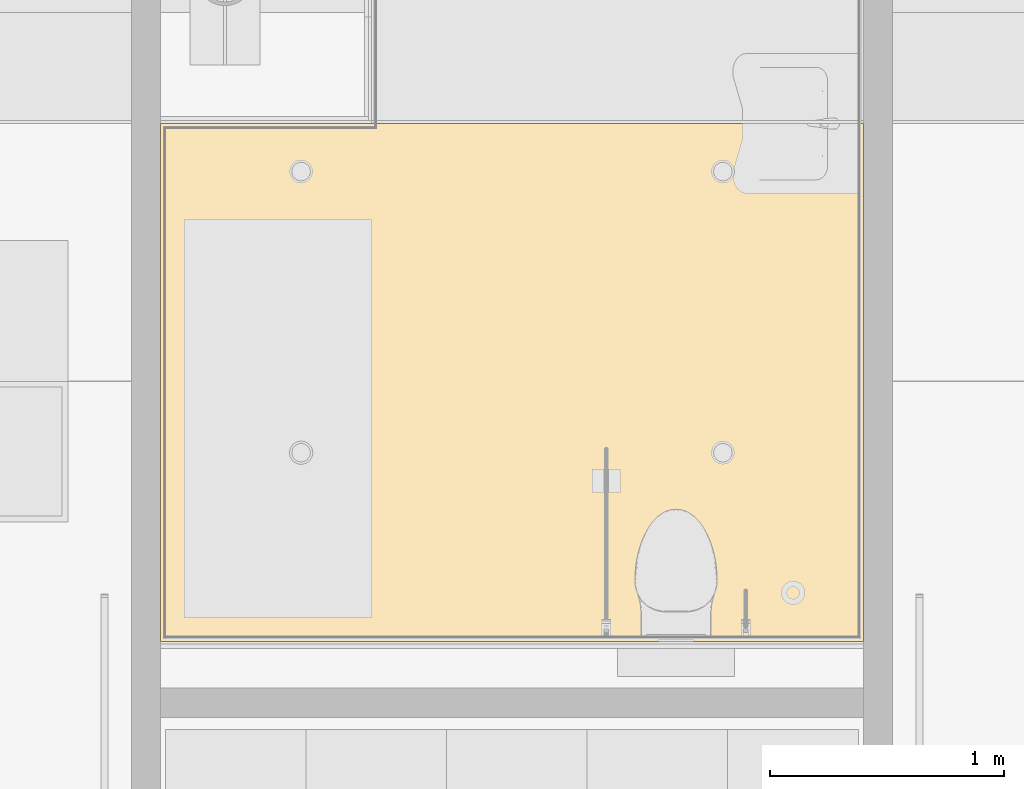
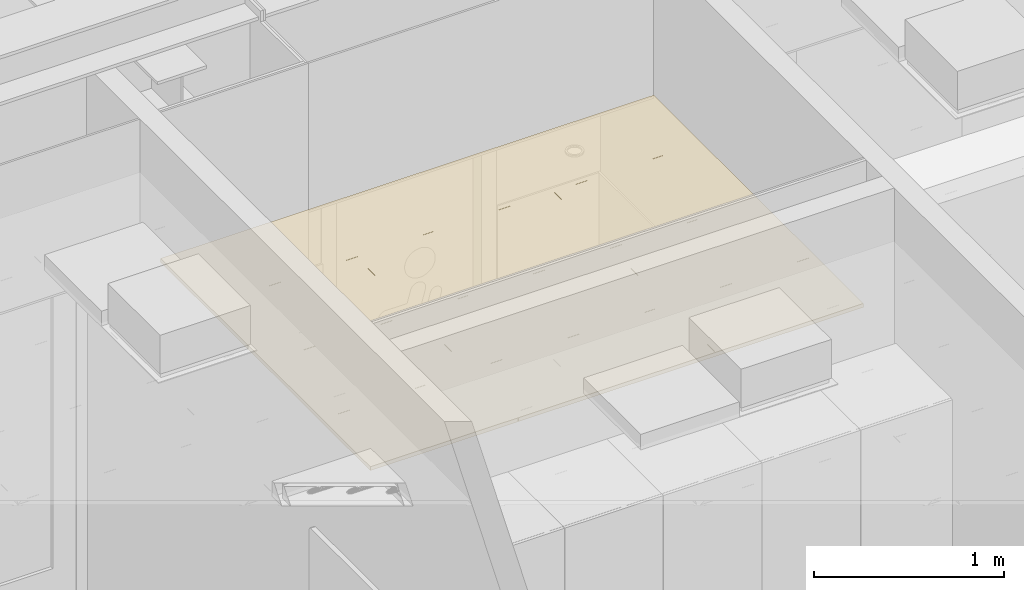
# One storey, part 163 of 347: 1 covering.
"""IFC2X3 building model written with IfcOpenShell, lengths in millimetres."""

from ifc_helpers import new_model, entity, si_unit, converted_unit, derived_unit, money_unit, direction, frame, origin_with_axes, place, context, subcontext, project, spatial, faceted_brep, type_object, element, save


model = new_model("IFC2X3")

# Units and contexts
model_context = context("Model", 3, precision=0.01, world=origin_with_axes(), true_north=direction((0.0, 1.0)))
plan_context = context("Plan", 3, precision=0.01, world=origin_with_axes(), true_north=direction((0.0, 1.0)))
body_context = subcontext(model_context, "Body", "Model", "MODEL_VIEW")
ifc_project = project(units=[si_unit("LENGTHUNIT", "METRE", prefix="MILLI"), si_unit("AREAUNIT", "SQUARE_METRE"), si_unit("VOLUMEUNIT", "CUBIC_METRE"), converted_unit("PLANEANGLEUNIT", "DEGREE", entity("IfcPlaneAngleMeasure", 0.0174532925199), si_unit("PLANEANGLEUNIT", "RADIAN"), dimensions=[0, 0, 0, 0, 0, 0, 0]), money_unit("EUR"), converted_unit("TIMEUNIT", "Year", entity("IfcTimeMeasure", 31556926.0), si_unit("TIMEUNIT", "SECOND"), dimensions=[0, 0, 1, 0, 0, 0, 0]), si_unit("MASSUNIT", "GRAM", prefix="KILO"), si_unit("THERMODYNAMICTEMPERATUREUNIT", "DEGREE_CELSIUS"), si_unit("LUMINOUSINTENSITYUNIT", "LUMEN"), si_unit("ENERGYUNIT", "JOULE", prefix="MEGA"), derived_unit("THERMALCONDUCTANCEUNIT", [(si_unit("POWERUNIT", "WATT"), 1), (si_unit("LENGTHUNIT", "METRE"), -1), (si_unit("THERMODYNAMICTEMPERATUREUNIT", "KELVIN"), -1)]), derived_unit("SPECIFICHEATCAPACITYUNIT", [(si_unit("ENERGYUNIT", "JOULE"), 1), (si_unit("MASSUNIT", "GRAM", prefix="KILO"), -1), (si_unit("THERMODYNAMICTEMPERATUREUNIT", "KELVIN"), -1)]), derived_unit("MASSDENSITYUNIT", [(si_unit("MASSUNIT", "GRAM", prefix="KILO"), 1), (si_unit("VOLUMEUNIT", "CUBIC_METRE"), -1)])], contexts=[model_context, plan_context])

# Site, building, storey
site_placement = place(None, origin_with_axes())
site = spatial("IfcSite", under=ifc_project, at=site_placement, Name="Site", CompositionType="ELEMENT")
building_placement = place(site_placement, origin_with_axes())
building = spatial("IfcBuilding", under=site, at=building_placement, Name="Naam gebouw", CompositionType="ELEMENT")
storey_placement = place(building_placement, origin_with_axes())
storey = spatial("IfcBuildingStorey", under=building, at=storey_placement, Name="begane grond", CompositionType="ELEMENT", Elevation=0.0)

# Covering
covering_type = type_object("IfcCoveringType", Name="Ceiling Editor INT_v2.01", PredefinedType="CEILING")
covering_placement = place(storey_placement, frame((24300.0, 9290.0, 2600.0), z_axis=(0.0, 0.0, 1.0), x_axis=(1.0, 0.0, 0.0)))
element("IfcCovering", 1, at=covering_placement, inside=storey, type_object=covering_type, Name="45 Plafondafwerkingen_77 garderobe", PredefinedType="CEILING", context=body_context, shape_type="Brep", body=[
    faceted_brep([(750.0, 0.0, 20.0), (899.9, 0.0, 20.0), (899.9, 504.899986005, 20.0), (0.0, 504.899986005, 20.0), (0.0, 0.0, 20.0), (750.0, 0.0, 0.0), (899.9, 0.0, 0.0), (899.9, 504.899986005, 0.0), (0.0, 504.899986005, 0.0), (0.0, 0.0, 0.0)], [[[0, 1, 2, 3, 4]], [[1, 0, 5, 6]], [[1, 6, 7, 2]], [[8, 3, 2, 7]], [[3, 8, 9, 4]], [[0, 4, 9, 5]], [[9, 8, 7, 6, 5]]]),
    faceted_brep([(0.0, 1104.89998601, 0.0), (0.0, 1104.89998601, 20.0), (899.9, 1104.89998601, 20.0), (899.9, 1104.89998601, 0.0), (0.0, 552.499993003, 0.0), (0.0, 552.499993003, 20.0), (0.0, 505.099986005, 20.0), (899.9, 505.099986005, 20.0), (899.9, 505.099986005, 0.0), (0.0, 505.099986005, 0.0)], [[[0, 1, 2, 3]], [[1, 0, 4, 5]], [[5, 6, 7, 2, 1]], [[7, 8, 3, 2]], [[4, 0, 3, 8, 9]], [[6, 5, 4, 9]], [[6, 9, 8, 7]]]),
    faceted_brep([(0.0, 1704.89998601, 0.0), (0.0, 1704.89998601, 20.0), (899.9, 1704.89998601, 20.0), (899.9, 1704.89998601, 0.0), (0.0, 1657.49997901, 0.0), (0.0, 1657.49997901, 20.0), (0.0, 1105.09998601, 20.0), (899.9, 1105.09998601, 20.0), (899.9, 1105.09998601, 0.0), (0.0, 1105.09998601, 0.0)], [[[0, 1, 2, 3]], [[1, 0, 4, 5]], [[5, 6, 7, 2, 1]], [[7, 8, 3, 2]], [[4, 0, 3, 8, 9]], [[6, 5, 4, 9]], [[6, 9, 8, 7]]]),
    faceted_brep([(899.9, 2209.99997201, 0.0), (899.9, 2209.99997201, 20.0), (899.9, 1705.09998601, 20.0), (899.9, 1705.09998601, 0.0), (750.0, 2209.99997201, 0.0), (750.0, 2209.99997201, 20.0), (0.0, 2209.99997201, 20.0), (0.0, 1705.09998601, 20.0), (0.0, 1705.09998601, 0.0), (0.0, 2209.99997201, 0.0)], [[[0, 1, 2, 3]], [[1, 0, 4, 5]], [[6, 7, 2, 1, 5]], [[7, 8, 3, 2]], [[4, 0, 3, 8, 9]], [[6, 5, 4, 9]], [[7, 6, 9, 8]]]),
    faceted_brep([(1500.0, 0.0, 20.0), (2099.9, 0.0, 20.0), (2099.9, 504.899986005, 20.0), (900.1, 504.899986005, 20.0), (900.1, 0.0, 20.0), (1500.0, 0.0, 0.0), (2099.9, 0.0, 0.0), (2099.9, 504.899986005, 0.0), (900.1, 504.899986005, 0.0), (900.1, 0.0, 0.0)], [[[0, 1, 2, 3, 4]], [[1, 0, 5, 6]], [[1, 6, 7, 2]], [[2, 7, 8, 3]], [[9, 4, 3, 8]], [[0, 4, 9, 5]], [[5, 9, 8, 7, 6]]]),
    faceted_brep([(2099.9, 505.099986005, 20.0), (2099.9, 505.099986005, 0.0), (2099.9, 1104.89998601, 0.0), (2099.9, 1104.89998601, 20.0), (900.1, 505.099986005, 20.0), (900.1, 505.099986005, 0.0), (900.1, 1104.89998601, 0.0), (900.1, 1104.89998601, 20.0)], [[[0, 1, 2, 3]], [[4, 5, 1, 0]], [[2, 1, 5, 6]], [[3, 2, 6, 7]], [[4, 0, 3, 7]], [[7, 6, 5, 4]]]),
    faceted_brep([(2099.9, 1105.09998601, 20.0), (2099.9, 1105.09998601, 0.0), (2099.9, 1704.89998601, 0.0), (2099.9, 1704.89998601, 20.0), (900.1, 1105.09998601, 20.0), (900.1, 1105.09998601, 0.0), (900.1, 1704.89998601, 0.0), (900.1, 1704.89998601, 20.0)], [[[0, 1, 2, 3]], [[4, 5, 1, 0]], [[2, 1, 5, 6]], [[3, 2, 6, 7]], [[4, 0, 3, 7]], [[7, 6, 5, 4]]]),
    faceted_brep([(2099.9, 2209.99997201, 0.0), (2099.9, 2209.99997201, 20.0), (2099.9, 1705.09998601, 20.0), (2099.9, 1705.09998601, 0.0), (1500.0, 2209.99997201, 0.0), (1500.0, 2209.99997201, 20.0), (900.1, 2209.99997201, 20.0), (900.1, 1705.09998601, 20.0), (900.1, 1705.09998601, 0.0), (900.1, 2209.99997201, 0.0)], [[[0, 1, 2, 3]], [[1, 0, 4, 5]], [[5, 6, 7, 2, 1]], [[7, 8, 3, 2]], [[4, 0, 3, 8, 9]], [[6, 5, 4, 9]], [[6, 9, 8, 7]]]),
    faceted_brep([(3000.0, 0.0, 20.0), (3000.0, 504.899986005, 20.0), (2100.1, 504.899986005, 20.0), (2100.1, 0.0, 20.0), (2250.0, 0.0, 20.0), (3000.0, 0.0, 0.0), (3000.0, 504.899986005, 0.0), (2100.1, 504.899986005, 0.0), (2100.1, 0.0, 0.0), (2250.0, 0.0, 0.0)], [[[0, 1, 2, 3, 4]], [[1, 0, 5, 6]], [[1, 6, 7, 2]], [[8, 3, 2, 7]], [[4, 3, 8, 9]], [[0, 4, 9, 5]], [[9, 8, 7, 6, 5]]]),
    faceted_brep([(3000.0, 552.499993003, 20.0), (3000.0, 1104.89998601, 20.0), (2100.1, 1104.89998601, 20.0), (2100.1, 505.099986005, 20.0), (3000.0, 505.099986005, 20.0), (3000.0, 552.499993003, 0.0), (3000.0, 1104.89998601, 0.0), (2100.1, 1104.89998601, 0.0), (2100.1, 505.099986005, 0.0), (3000.0, 505.099986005, 0.0)], [[[0, 1, 2, 3, 4]], [[1, 0, 5, 6]], [[1, 6, 7, 2]], [[2, 7, 8, 3]], [[9, 4, 3, 8]], [[0, 4, 9, 5]], [[5, 9, 8, 7, 6]]]),
    faceted_brep([(3000.0, 1657.49997901, 20.0), (3000.0, 1704.89998601, 20.0), (2100.1, 1704.89998601, 20.0), (2100.1, 1105.09998601, 20.0), (3000.0, 1105.09998601, 20.0), (3000.0, 1657.49997901, 0.0), (3000.0, 1704.89998601, 0.0), (2100.1, 1704.89998601, 0.0), (2100.1, 1105.09998601, 0.0), (3000.0, 1105.09998601, 0.0)], [[[0, 1, 2, 3, 4]], [[1, 0, 5, 6]], [[1, 6, 7, 2]], [[2, 7, 8, 3]], [[9, 4, 3, 8]], [[0, 4, 9, 5]], [[5, 9, 8, 7, 6]]]),
    faceted_brep([(3000.0, 1705.09998601, 20.0), (3000.0, 2209.99997201, 20.0), (2250.0, 2209.99997201, 20.0), (2100.1, 2209.99997201, 20.0), (2100.1, 1705.09998601, 20.0), (3000.0, 1705.09998601, 0.0), (3000.0, 2209.99997201, 0.0), (2250.0, 2209.99997201, 0.0), (2100.1, 2209.99997201, 0.0), (2100.1, 1705.09998601, 0.0)], [[[0, 1, 2, 3, 4]], [[1, 0, 5, 6]], [[2, 1, 6, 7]], [[3, 2, 7, 8]], [[3, 8, 9, 4]], [[5, 0, 4, 9]], [[6, 5, 9, 8, 7]]]),
    faceted_brep([(3000.0, 0.0, 0.0), (3000.0, 0.0, -5.0), (3000.0, 492.499986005, -5.0), (3000.0, 517.499986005, -5.0), (3000.0, 1092.49998601, -5.0), (3000.0, 1104.99998601, -5.0), (3000.0, 1104.99998601, 0.0), (3000.0, 1092.49998601, 0.0), (3000.0, 517.499986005, 0.0), (3000.0, 492.499986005, 0.0), (912.5, 0.0, -5.0), (2087.5, 0.0, -5.0), (2112.5, 0.0, -5.0), (2112.5, 0.0, 0.0), (2087.5, 0.0, 0.0), (912.5, 0.0, 0.0), (887.5, 0.0, 0.0), (0.0, 0.0, 0.0), (0.0, 0.0, -5.0), (887.5, 0.0, -5.0), (0.0, 492.499986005, -5.0), (0.0, 517.499986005, -5.0), (0.0, 1092.49998601, -5.0), (0.0, 1104.99998601, -5.0), (0.0, 1117.49998601, -5.0), (0.0, 1692.49998601, -5.0), (0.0, 1717.49998601, -5.0), (0.0, 2209.99997201, -5.0), (887.5, 2209.99997201, -5.0), (912.5, 2209.99997201, -5.0), (2087.5, 2209.99997201, -5.0), (2112.5, 2209.99997201, -5.0), (3000.0, 2209.99997201, -5.0), (3000.0, 1717.49998601, -5.0), (3000.0, 1692.49998601, -5.0), (3000.0, 1117.49998601, -5.0), (2087.5, 517.499986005, -5.0), (2087.5, 1092.49998601, -5.0), (912.5, 1092.49998601, -5.0), (912.5, 517.499986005, -5.0), (2087.5, 1117.49998601, -5.0), (2087.5, 1692.49998601, -5.0), (912.5, 1692.49998601, -5.0), (912.5, 1117.49998601, -5.0), (25.0, 1092.49998601, -5.0), (25.0, 517.499986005, -5.0), (887.5, 517.499986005, -5.0), (887.5, 1092.49998601, -5.0), (25.0, 1692.49998601, -5.0), (25.0, 1117.49998601, -5.0), (887.5, 1117.49998601, -5.0), (887.5, 1692.49998601, -5.0), (887.5, 2184.99997201, -5.0), (25.0, 2184.99997201, -5.0), (25.0, 1717.49998601, -5.0), (887.5, 1717.49998601, -5.0), (2087.5, 2184.99997201, -5.0), (912.5, 2184.99997201, -5.0), (912.5, 1717.49998601, -5.0), (2087.5, 1717.49998601, -5.0), (2975.0, 2184.99997201, -5.0), (2112.5, 2184.99997201, -5.0), (2112.5, 1717.49998601, -5.0), (2975.0, 1717.49998601, -5.0), (2975.0, 1692.49998601, -5.0), (2112.5, 1692.49998601, -5.0), (2112.5, 1117.49998601, -5.0), (2975.0, 1117.49998601, -5.0), (2975.0, 1092.49998601, -5.0), (2112.5, 1092.49998601, -5.0), (2112.5, 517.499986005, -5.0), (2975.0, 517.499986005, -5.0), (2975.0, 25.0, -5.0), (2975.0, 492.499986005, -5.0), (2112.5, 492.499986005, -5.0), (2112.5, 25.0, -5.0), (887.5, 25.0, -5.0), (887.5, 492.499986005, -5.0), (25.0, 492.499986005, -5.0), (25.0, 25.0, -5.0), (2087.5, 25.0, -5.0), (2087.5, 492.499986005, -5.0), (912.5, 492.499986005, -5.0), (912.5, 25.0, -5.0), (3000.0, 2209.99997201, 0.0), (3000.0, 1717.49998601, 0.0), (3000.0, 1692.49998601, 0.0), (3000.0, 1117.49998601, 0.0), (2112.5, 2209.99997201, 0.0), (2087.5, 2209.99997201, 0.0), (912.5, 2209.99997201, 0.0), (887.5, 2209.99997201, 0.0), (0.0, 2209.99997201, 0.0), (0.0, 1717.49998601, 0.0), (0.0, 1692.49998601, 0.0), (0.0, 1117.49998601, 0.0), (0.0, 1104.99998601, 0.0), (0.0, 1092.49998601, 0.0), (0.0, 517.499986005, 0.0), (0.0, 492.499986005, 0.0), (912.5, 1092.49998601, 0.0), (2087.5, 1092.49998601, 0.0), (2087.5, 517.499986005, 0.0), (912.5, 517.499986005, 0.0), (912.5, 1692.49998601, 0.0), (2087.5, 1692.49998601, 0.0), (2087.5, 1117.49998601, 0.0), (912.5, 1117.49998601, 0.0), (25.0, 1092.49998601, 0.0), (887.5, 1092.49998601, 0.0), (887.5, 517.499986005, 0.0), (25.0, 517.499986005, 0.0), (25.0, 1692.49998601, 0.0), (887.5, 1692.49998601, 0.0), (887.5, 1117.49998601, 0.0), (25.0, 1117.49998601, 0.0), (887.5, 2184.99997201, 0.0), (887.5, 1717.49998601, 0.0), (25.0, 1717.49998601, 0.0), (25.0, 2184.99997201, 0.0), (2087.5, 2184.99997201, 0.0), (2087.5, 1717.49998601, 0.0), (912.5, 1717.49998601, 0.0), (912.5, 2184.99997201, 0.0), (2975.0, 2184.99997201, 0.0), (2975.0, 1717.49998601, 0.0), (2112.5, 1717.49998601, 0.0), (2112.5, 2184.99997201, 0.0), (2975.0, 1117.49998601, 0.0), (2112.5, 1117.49998601, 0.0), (2112.5, 1692.49998601, 0.0), (2975.0, 1692.49998601, 0.0), (2975.0, 517.499986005, 0.0), (2112.5, 517.499986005, 0.0), (2112.5, 1092.49998601, 0.0), (2975.0, 1092.49998601, 0.0), (2112.5, 25.0, 0.0), (2112.5, 492.499986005, 0.0), (2975.0, 492.499986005, 0.0), (2975.0, 25.0, 0.0), (887.5, 25.0, 0.0), (25.0, 25.0, 0.0), (25.0, 492.499986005, 0.0), (887.5, 492.499986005, 0.0), (912.5, 25.0, 0.0), (912.5, 492.499986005, 0.0), (2087.5, 492.499986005, 0.0), (2087.5, 25.0, 0.0)], [[[0, 1, 2, 3, 4, 5, 6, 7, 8, 9]], [[10, 11, 12, 1, 0, 13, 14, 15, 16, 17, 18, 19]], [[10, 19, 18, 20, 21, 22, 23, 24, 25, 26, 27, 28, 29, 30, 31, 32, 33, 34, 35, 5, 4, 3, 2, 1, 12, 11], [36, 37, 38, 39], [40, 41, 42, 43], [44, 45, 46, 47], [48, 49, 50, 51], [52, 53, 54, 55], [56, 57, 58, 59], [60, 61, 62, 63], [64, 65, 66, 67], [68, 69, 70, 71], [72, 73, 74, 75], [76, 77, 78, 79], [80, 81, 82, 83]], [[35, 34, 33, 32, 84, 85, 86, 87, 6, 5]], [[14, 13, 0, 9, 8, 7, 6, 87, 86, 85, 84, 88, 89, 90, 91, 92, 93, 94, 95, 96, 97, 98, 99, 17, 16, 15], [100, 101, 102, 103], [104, 105, 106, 107], [108, 109, 110, 111], [112, 113, 114, 115], [116, 117, 118, 119], [120, 121, 122, 123], [124, 125, 126, 127], [128, 129, 130, 131], [132, 133, 134, 135], [136, 137, 138, 139], [140, 141, 142, 143], [144, 145, 146, 147]], [[97, 96, 23, 22, 21, 20, 18, 17, 99, 98]], [[92, 27, 26, 25, 24, 23, 96, 95, 94, 93]], [[84, 32, 31, 30, 29, 28, 27, 92, 91, 90, 89, 88]], [[102, 101, 37, 36]], [[38, 37, 101, 100]], [[39, 38, 100, 103]], [[103, 102, 36, 39]], [[106, 105, 41, 40]], [[42, 41, 105, 104]], [[43, 42, 104, 107]], [[107, 106, 40, 43]], [[44, 108, 111, 45]], [[45, 111, 110, 46]], [[110, 109, 47, 46]], [[108, 44, 47, 109]], [[48, 112, 115, 49]], [[49, 115, 114, 50]], [[114, 113, 51, 50]], [[112, 48, 51, 113]], [[52, 116, 119, 53]], [[53, 119, 118, 54]], [[54, 118, 117, 55]], [[116, 52, 55, 117]], [[56, 120, 123, 57]], [[57, 123, 122, 58]], [[122, 121, 59, 58]], [[120, 56, 59, 121]], [[60, 124, 127, 61]], [[61, 127, 126, 62]], [[125, 63, 62, 126]], [[124, 60, 63, 125]], [[64, 131, 130, 65]], [[66, 65, 130, 129]], [[128, 67, 66, 129]], [[128, 131, 64, 67]], [[68, 135, 134, 69]], [[70, 69, 134, 133]], [[132, 71, 70, 133]], [[132, 135, 68, 71]], [[72, 139, 138, 73]], [[73, 138, 137, 74]], [[136, 75, 74, 137]], [[136, 139, 72, 75]], [[76, 140, 143, 77]], [[142, 78, 77, 143]], [[141, 79, 78, 142]], [[140, 76, 79, 141]], [[80, 147, 146, 81]], [[82, 81, 146, 145]], [[144, 83, 82, 145]], [[144, 147, 80, 83]]]),
])

save(model, "model.ifc")
